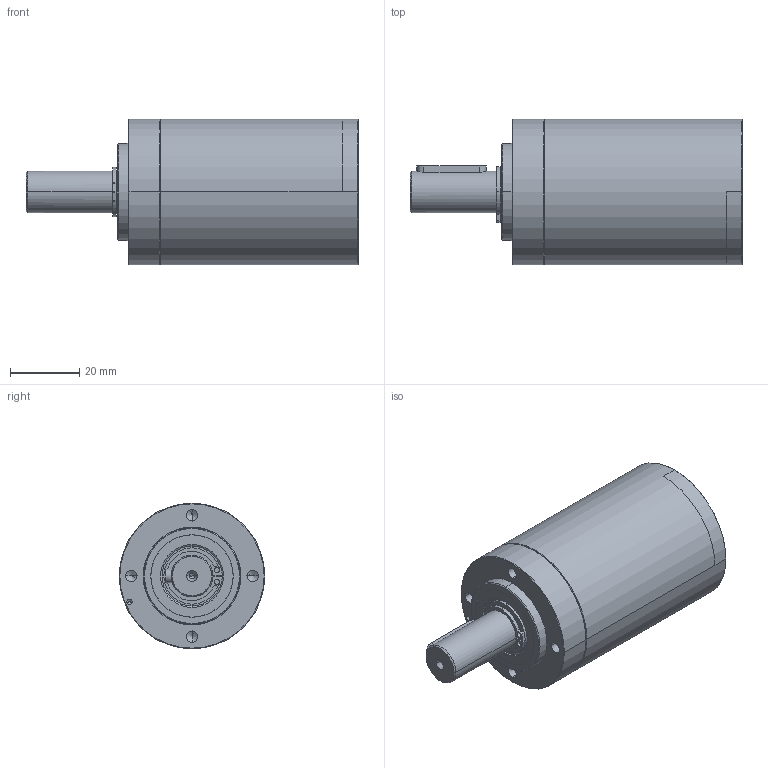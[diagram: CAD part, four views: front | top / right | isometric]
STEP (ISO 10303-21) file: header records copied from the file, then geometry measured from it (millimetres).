
FILE_DESCRIPTION (( 'STEP AP214' ), '1' );
FILE_NAME ('PGx42 - 3 Stage.STEP', '2025-05-12T10:31:42', ( '' ), ( '' ), 'SwSTEP 2.0', 'SolidWorks 2023', '' );
FILE_SCHEMA (( 'AUTOMOTIVE_DESIGN' ));
Length unit declared in the file: millimetre
Products named in the file (1): PGx42 - 3 Stage
Bounding box: 95.75 x 42 x 42 mm (x, y, z)
Volume: 90527.1 mm3; surface area: 14814.2 mm2
Topology: 2 solids, 2 shells, 113 faces, 268 edges, 159 vertices
Faces by surface type: cylinder 49, cone 35, plane 23, torus 6
Entity records: 4642 total; most frequent: CARTESIAN_POINT 713, DIRECTION 613, ORIENTED_EDGE 512, EDGE_CURVE 256, AXIS2_PLACEMENT_3D 251, VERTEX_POINT 159, CIRCLE 137, EDGE_LOOP 131
